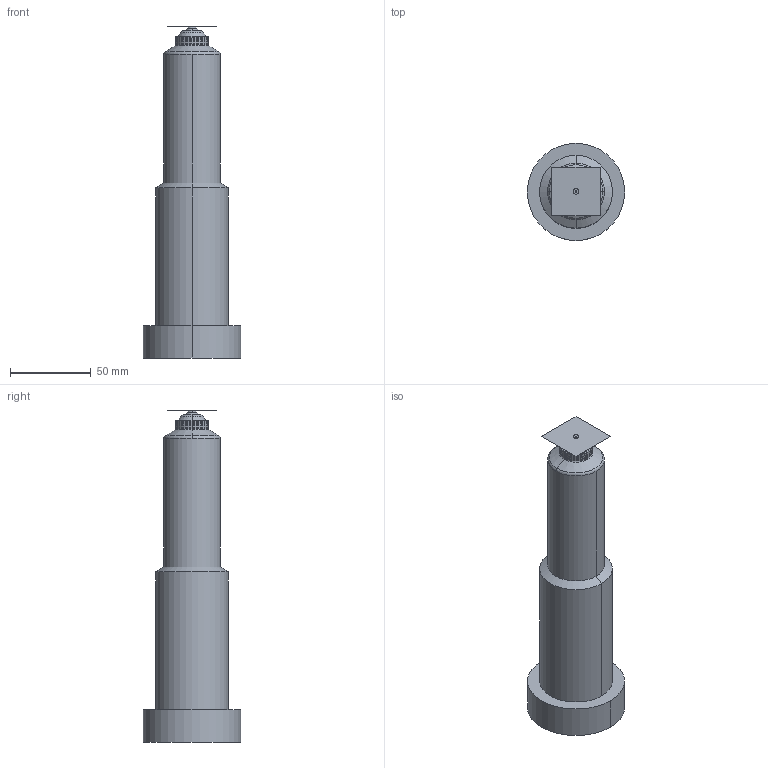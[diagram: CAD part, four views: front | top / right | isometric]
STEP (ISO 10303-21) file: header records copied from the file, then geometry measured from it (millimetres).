
FILE_DESCRIPTION (( 'STEP AP214' ), '1' );
FILE_NAME ('12EX16-03-205-TTW.STEP', '2021-12-20T12:55:14', ( '' ), ( '' ), 'SwSTEP 2.0', 'SolidWorks 2018', '' );
FILE_SCHEMA (( 'AUTOMOTIVE_DESIGN' ));
Length unit declared in the file: millimetre
Products named in the file (3): cutout_12EX16-03-205-TTW; 12EX16-03-205-TTW; nozzle_12EX16-03-205-TTW
Assembly tree (2 placements, depth 2):
  12EX16-03-205-TTW
    nozzle_12EX16-03-205-TTW
    cutout_12EX16-03-205-TTW
Bounding box: 60 x 60 x 205 mm (x, y, z)
Volume: 278148.6 mm3; surface area: 92943.3 mm2
Topology: 1 solids, 5 shells, 418 faces, 1109 edges, 677 vertices
Faces by surface type: cylinder 149, plane 138, torus 67, cone 54, bspline 6, sphere 4
Entity records: 17301 total; most frequent: CARTESIAN_POINT 6539, DIRECTION 2385, ORIENTED_EDGE 2210, EDGE_CURVE 1107, AXIS2_PLACEMENT_3D 954, VERTEX_POINT 677, CIRCLE 536, VECTOR 477
